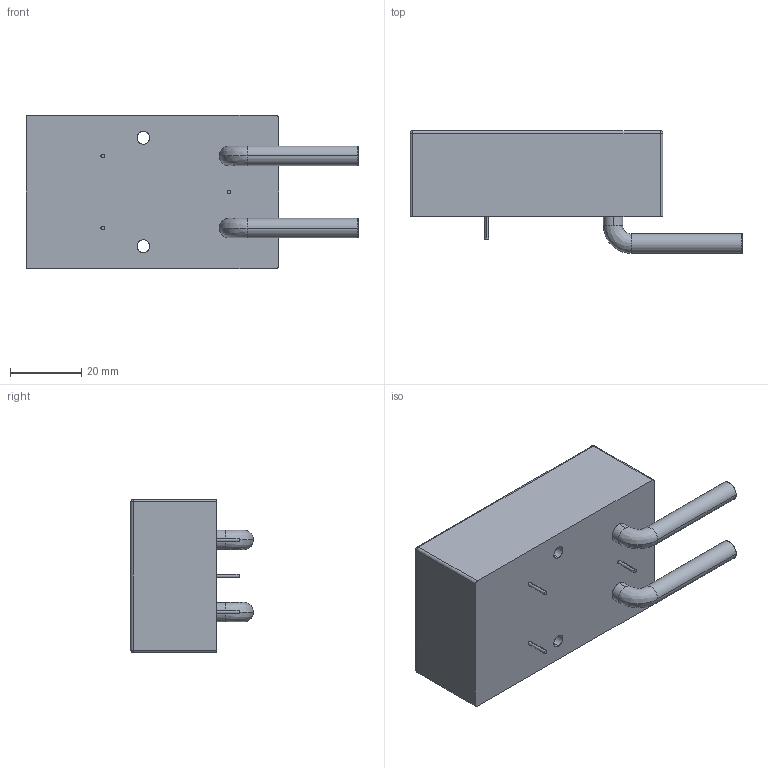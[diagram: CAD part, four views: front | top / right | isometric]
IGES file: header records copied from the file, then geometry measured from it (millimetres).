
Start section: SolidWorks IGES file using analytic representation for surfaces
Global section: file name: C:\Users\asmith\Desktop\~For Darol\Checked .igs Files\F-Series\F70-F80 wCT.IGS; native system: SolidWorks 2017; preprocessor: SolidWorks 2017; author: asmith; date: 171113.100239; units: inch
Bounding box: 93.42 x 34.48 x 43.18 mm (x, y, z)
Surface area: 13542.4 mm2 (no closed solid volume)
Topology: 0 solids, 0 shells, 45 faces, 536 edges, 532 vertices
Faces by surface type: revolution 30, bspline 15
